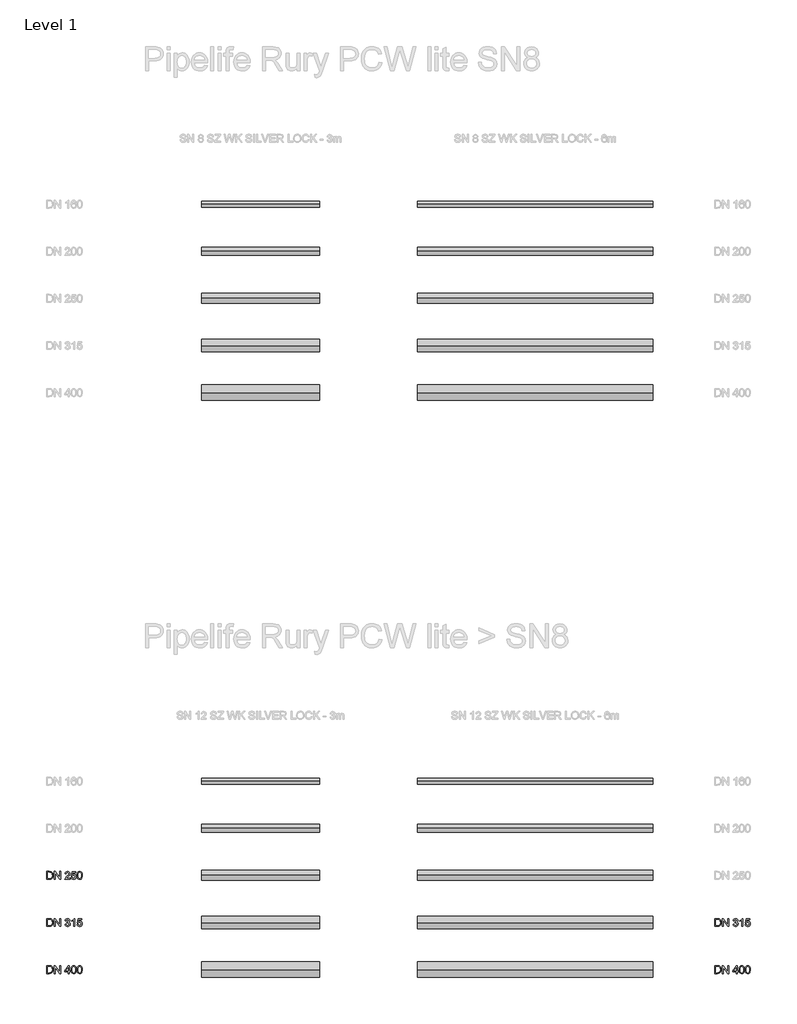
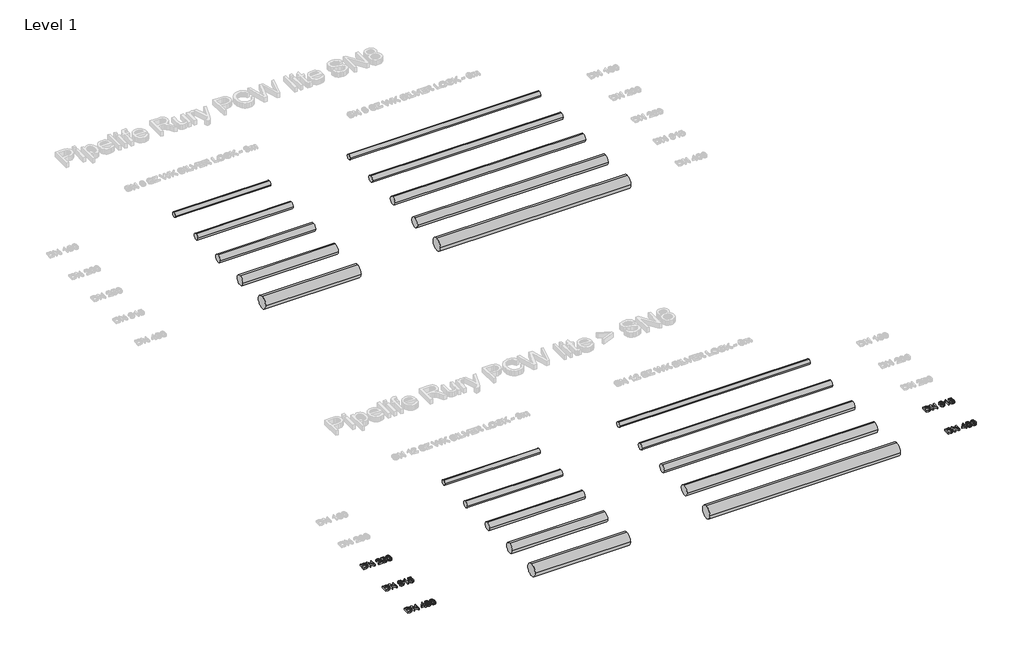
# One storey, part 1 of 8: 20 pipe segments, 5 proxies.
"""IFC4 building model written with IfcOpenShell, lengths in millimetres."""

from ifc_helpers import new_model, si_unit, point, frame, frame_2d, origin, origin_with_axes, place, context, project, spatial, polyline, circle_curve, trimmed, segment, composite_curve, outline, extrude, element, save

model = new_model("IFC4")

# Units and contexts
model_context = context("Model", 3, world=origin())
ifc_project = project(units=[si_unit("LENGTHUNIT", "METRE", prefix="MILLI")], contexts=[model_context])

# Site, building, storey
site = spatial("IfcSite", under=ifc_project)
building = spatial("IfcBuilding", under=site)
storey = spatial("IfcBuildingStorey", under=building, Name="Level 1", Elevation=0.0)

# Proxies
placement = place(None, origin())
element("IfcBuildingElementProxy", 1, Name="200mm Arial", ObjectType="200mm Arial", at=placement, inside=storey, context=model_context, shape_type="SweptSolid", body=[
    extrude(outline(polyline([(-19491.3116028, -16613.949573), (-19491.3116028, -16413.0369527), (-19422.0026349, -16413.0369527), (-19386.1464031, -16415.9309577), (-19370.1312736, -16421.5105013), (-19356.6177416, -16430.302881), (-19342.724065, -16445.606772), (-19332.8280393, -16464.6385338), (-19326.9051392, -16487.0302846), (-19324.9308391, -16512.4141423), (-19330.2773908, -16552.9547382), (-19344.0116519, -16582.2136195), (-19362.3567008, -16600.436041), (-19386.3671323, -16610.5160077), (-19418.6671715, -16613.949573), (-19491.3116028, -16613.949573)]), holes=[polyline([(-19466.1975253, -16588.8354954), (-19421.7573803, -16588.8354954), (-19389.4328156, -16585.2057264), (-19370.7934612, -16574.9540815), (-19362.0685265, -16564.0831685), (-19355.5140957, -16550.0116822), (-19351.4122114, -16532.6783089), (-19350.0449167, -16512.0217348), (-19352.7243239, -16484.6513144), (-19360.7625455, -16464.4423301), (-19372.6390025, -16450.5609162), (-19386.8331162, -16442.1732067), (-19422.4440933, -16438.1510302), (-19466.1975253, -16438.1510302), (-19466.1975253, -16588.8354954)])]), origin_with_axes(), (0.0, 0.0, 1.0), 50.0),
    extrude(outline(polyline([(-19290.3989825, -16613.949573), (-19290.3989825, -16413.0369527), (-19263.5190714, -16413.0369527), (-19158.5500754, -16572.2072292), (-19158.5500754, -16413.0369527), (-19133.4359979, -16413.0369527), (-19133.4359979, -16613.949573), (-19160.315909, -16613.949573), (-19265.284905, -16454.7302454), (-19265.284905, -16613.949573), (-19290.3989825, -16613.949573)])), origin_with_axes(), (0.0, 0.0, 1.0), 50.0),
    extrude(outline(polyline([(-18891.7130016, -16588.8354954), (-18891.7130016, -16613.949573), (-19023.5619087, -16613.949573), (-19020.8641074, -16596.6345937), (-19005.6092673, -16569.9754118), (-18974.1676195, -16540.8636832), (-18930.806595, -16499.0232377), (-18922.6764029, -16484.6022634), (-18919.9663388, -16470.5736967), (-18922.5231187, -16457.9982638), (-18930.1934583, -16447.5442838), (-18941.9840762, -16440.4993436), (-18956.9016912, -16438.1510302), (-18972.5673328, -16440.4441613), (-18984.7380955, -16447.3235546), (-18992.5923761, -16458.2496499), (-18995.3085714, -16472.6828868), (-19020.422649, -16469.5436271), (-19014.334202, -16445.2511527), (-19001.1701579, -16427.5069778), (-18981.6172299, -16416.6544589), (-18956.3621309, -16413.0369527), (-18930.9230909, -16417.0591291), (-18911.4069511, -16429.1256586), (-18898.9909337, -16447.1518763), (-18894.8522613, -16469.0531178), (-18899.3158962, -16492.8673456), (-18914.1538033, -16517.4909138), (-18950.1326624, -16551.9001431), (-18979.0236618, -16576.0577275), (-18990.3544272, -16588.8354954), (-18891.7130016, -16588.8354954)])), origin_with_axes(), (0.0, 0.0, 1.0), 50.0),
    extrude(outline(polyline([(-18866.5989241, -16560.5821582), (-18841.4848465, -16557.4428985), (-18836.8740589, -16572.5199289), (-18828.8297059, -16583.3172655), (-18817.3885758, -16589.8103827), (-18802.5874569, -16591.9747551), (-18784.5857646, -16588.9642541), (-18771.0967581, -16579.9327511), (-18762.6722604, -16565.9225785), (-18759.8640945, -16547.9760685), (-18762.4944508, -16531.0780222), (-18770.3855196, -16518.1531014), (-18783.5986146, -16509.9493329), (-18802.1950494, -16507.2147434), (-18824.2434437, -16511.5802764), (-18838.3455868, -16522.9110419), (-18863.4596644, -16519.7717822), (-18841.4848465, -16416.1762123), (-18744.1677961, -16416.1762123), (-18744.1677961, -16441.2902899), (-18821.1777604, -16441.2902899), (-18831.9199147, -16496.619742), (-18813.979536, -16485.7304349), (-18795.1807661, -16482.1006659), (-18771.7160261, -16486.601089), (-18752.2366745, -16500.1023582), (-18739.1216814, -16520.6792244), (-18734.750017, -16546.4064386), (-18738.6863543, -16571.5205162), (-18750.4953664, -16593.0048247), (-18760.9309523, -16603.5415782), (-18773.1078464, -16611.0678307), (-18787.0260485, -16615.5835821), (-18802.6855588, -16617.0888326), (-18827.3520466, -16613.2199403), (-18847.0030765, -16601.6132634), (-18860.4736888, -16583.6177025), (-18866.5989241, -16560.5821582)])), origin_with_axes(), (0.0, 0.0, 1.0), 50.0),
    extrude(outline(polyline([(-18712.7751992, -16515.1119436), (-18710.9296578, -16482.9529258), (-18705.3930338, -16457.3054194), (-18696.2205094, -16437.7770168), (-18683.4672669, -16423.9753106), (-18667.0413358, -16415.7715422), (-18646.8507456, -16413.0369527), (-18631.3751764, -16414.6556334), (-18617.5182879, -16419.5116758), (-18605.930005, -16427.4150073), (-18597.2602527, -16438.1755557), (-18585.4880288, -16467.9004209), (-18580.9262921, -16515.1119436), (-18582.7534393, -16547.0870203), (-18588.2348811, -16572.6732131), (-18597.3522232, -16592.2200098), (-18610.0870716, -16606.0768983), (-18626.5497909, -16614.335849), (-18646.8507456, -16617.0888326), (-18672.9458418, -16612.3063667), (-18692.7624186, -16597.9589689), (-18701.5180101, -16582.8298218), (-18707.772004, -16563.9789353), (-18712.7751992, -16515.1119436)]), holes=[polyline([(-18687.6611216, -16515.0628927), (-18684.7180657, -16554.5672876), (-18675.8888978, -16577.4311536), (-18662.7432478, -16588.3388547), (-18646.8507456, -16591.9747551), (-18630.9582434, -16588.326592), (-18617.8125935, -16577.3821026), (-18608.9834256, -16554.5059739), (-18606.0403696, -16515.0628927), (-18608.8853237, -16476.4475459), (-18617.420186, -16453.4058703), (-18630.5413105, -16441.9647402), (-18647.1450512, -16438.1510302), (-18662.8658751, -16441.5110191), (-18675.4964903, -16451.5909857), (-18684.6199638, -16476.0674012), (-18687.6611216, -16515.0628927)])]), origin_with_axes(), (0.0, 0.0, 1.0), 50.0),
])
element("IfcBuildingElementProxy", 2, Name="200mm Arial", ObjectType="200mm Arial", at=placement, inside=storey, context=model_context, shape_type="SweptSolid", body=[
    extrude(outline(polyline([(-19491.3116028, -17813.949573), (-19491.3116028, -17613.0369527), (-19422.0026349, -17613.0369527), (-19386.1464031, -17615.9309577), (-19370.1312736, -17621.5105013), (-19356.6177416, -17630.302881), (-19342.724065, -17645.606772), (-19332.8280393, -17664.6385338), (-19326.9051392, -17687.0302846), (-19324.9308391, -17712.4141423), (-19330.2773908, -17752.9547382), (-19344.0116519, -17782.2136195), (-19362.3567008, -17800.436041), (-19386.3671323, -17810.5160077), (-19418.6671715, -17813.949573), (-19491.3116028, -17813.949573)]), holes=[polyline([(-19466.1975253, -17788.8354954), (-19421.7573803, -17788.8354954), (-19389.4328156, -17785.2057264), (-19370.7934612, -17774.9540815), (-19362.0685265, -17764.0831685), (-19355.5140957, -17750.0116822), (-19351.4122114, -17732.6783089), (-19350.0449167, -17712.0217348), (-19352.7243239, -17684.6513144), (-19360.7625455, -17664.4423301), (-19372.6390025, -17650.5609162), (-19386.8331162, -17642.1732067), (-19422.4440933, -17638.1510302), (-19466.1975253, -17638.1510302), (-19466.1975253, -17788.8354954)])]), origin_with_axes(), (0.0, 0.0, 1.0), 50.0),
    extrude(outline(polyline([(-19290.3989825, -17813.949573), (-19290.3989825, -17613.0369527), (-19263.5190714, -17613.0369527), (-19158.5500754, -17772.2072292), (-19158.5500754, -17613.0369527), (-19133.4359979, -17613.0369527), (-19133.4359979, -17813.949573), (-19160.315909, -17813.949573), (-19265.284905, -17654.7302454), (-19265.284905, -17813.949573), (-19290.3989825, -17813.949573)])), origin_with_axes(), (0.0, 0.0, 1.0), 50.0),
    extrude(outline(polyline([(-19020.422649, -17760.5821582), (-18995.3085714, -17757.4428985), (-18989.6861083, -17773.2250361), (-18981.451683, -17783.8813512), (-18970.2006253, -17789.9514041), (-18955.528265, -17791.9747551), (-18938.3113877, -17789.1911147), (-18925.0185849, -17780.8401934), (-18916.5205108, -17768.3812565), (-18913.6878195, -17753.2735692), (-18916.4959853, -17738.9323028), (-18924.920483, -17727.3011004), (-18937.6737255, -17719.5939726), (-18953.4681259, -17717.02493), (-18971.0774107, -17719.7717822), (-18968.2815075, -17694.6577047), (-18964.2593311, -17694.9520102), (-18949.2129575, -17693.1493885), (-18935.7607392, -17687.7415231), (-18926.2693837, -17678.5935242), (-18923.1055985, -17665.5705016), (-18925.3987296, -17654.7241141), (-18932.2781229, -17645.925603), (-18942.7750225, -17640.0946734), (-18955.9206725, -17638.1510302), (-18969.0908479, -17640.1130675), (-18979.8575277, -17645.9991794), (-18987.7179396, -17655.809366), (-18992.1693118, -17669.5436271), (-19017.2833893, -17666.4043674), (-19009.8889612, -17643.8532011), (-18996.7310485, -17627.0164685), (-18978.7293562, -17616.5318316), (-18956.8035893, -17613.0369527), (-18941.0153203, -17614.7598667), (-18926.5146384, -17619.9286087), (-18914.2886934, -17628.0833263), (-18905.3246354, -17638.7641669), (-18899.8247996, -17651.0698196), (-18897.991521, -17664.0989736), (-18899.7328291, -17676.2390794), (-18904.9567534, -17687.2510138), (-18913.5897176, -17696.6320047), (-18925.5581452, -17703.87928), (-18909.8373212, -17710.2313758), (-18898.1877247, -17721.0471064), (-18890.9772376, -17735.7378608), (-18888.5737419, -17753.7150276), (-18893.3807333, -17778.191443), (-18907.8017075, -17798.645682), (-18929.5680589, -17812.478045), (-18956.4111818, -17817.0888326), (-18980.6913935, -17813.1524953), (-19000.4589194, -17801.3434833), (-19014.2054433, -17783.2804773), (-19020.422649, -17760.5821582)])), origin_with_axes(), (0.0, 0.0, 1.0), 50.0),
    extrude(outline(polyline([(-18772.4211333, -17813.949573), (-18797.5352108, -17813.949573), (-18797.5352108, -17657.3789958), (-18821.3249132, -17674.3260931), (-18847.7633659, -17687.0057592), (-18847.7633659, -17663.2651077), (-18810.9506409, -17639.769711), (-18797.4800285, -17626.1948653), (-18788.6079411, -17613.0369527), (-18772.4211333, -17613.0369527), (-18772.4211333, -17813.949573)])), origin_with_axes(), (0.0, 0.0, 1.0), 50.0),
    extrude(outline(polyline([(-18712.7751992, -17760.5821582), (-18687.6611216, -17757.4428985), (-18683.0503339, -17772.5199289), (-18675.005981, -17783.3172655), (-18663.5648509, -17789.8103827), (-18648.763732, -17791.9747551), (-18630.7620397, -17788.9642541), (-18617.2730332, -17779.9327511), (-18608.8485355, -17765.9225785), (-18606.0403696, -17747.9760685), (-18608.6707259, -17731.0780222), (-18616.5617947, -17718.1531014), (-18629.7748897, -17709.9493329), (-18648.3713245, -17707.2147434), (-18670.4197188, -17711.5802764), (-18684.5218619, -17722.9110419), (-18709.6359395, -17719.7717822), (-18687.6611216, -17616.1762123), (-18590.3440712, -17616.1762123), (-18590.3440712, -17641.2902899), (-18667.3540355, -17641.2902899), (-18678.0961897, -17696.619742), (-18660.1558111, -17685.7304349), (-18641.3570412, -17682.1006659), (-18617.8923012, -17686.601089), (-18598.4129496, -17700.1023582), (-18585.2979565, -17720.6792244), (-18580.9262921, -17746.4064386), (-18584.8626294, -17771.5205162), (-18596.6716415, -17793.0048247), (-18607.1072274, -17803.5415782), (-18619.2841214, -17811.0678307), (-18633.2023236, -17815.5835821), (-18648.8618339, -17817.0888326), (-18673.5283216, -17813.2199403), (-18693.1793515, -17801.6132634), (-18706.6499639, -17783.6177025), (-18712.7751992, -17760.5821582)])), origin_with_axes(), (0.0, 0.0, 1.0), 50.0),
])
element("IfcBuildingElementProxy", 3, Name="200mm Arial", ObjectType="200mm Arial", at=placement, inside=storey, context=model_context, shape_type="SweptSolid", body=[
    extrude(outline(polyline([(-19491.3116028, -19013.949573), (-19491.3116028, -18813.0369527), (-19422.0026349, -18813.0369527), (-19386.1464031, -18815.9309577), (-19370.1312736, -18821.5105013), (-19356.6177416, -18830.302881), (-19342.724065, -18845.606772), (-19332.8280393, -18864.6385338), (-19326.9051392, -18887.0302846), (-19324.9308391, -18912.4141423), (-19330.2773908, -18952.9547382), (-19344.0116519, -18982.2136195), (-19362.3567008, -19000.436041), (-19386.3671323, -19010.5160077), (-19418.6671715, -19013.949573), (-19491.3116028, -19013.949573)]), holes=[polyline([(-19466.1975253, -18988.8354954), (-19421.7573803, -18988.8354954), (-19389.4328156, -18985.2057264), (-19370.7934612, -18974.9540815), (-19362.0685265, -18964.0831685), (-19355.5140957, -18950.0116822), (-19351.4122114, -18932.6783089), (-19350.0449167, -18912.0217348), (-19352.7243239, -18884.6513144), (-19360.7625455, -18864.4423301), (-19372.6390025, -18850.5609162), (-19386.8331162, -18842.1732067), (-19422.4440933, -18838.1510302), (-19466.1975253, -18838.1510302), (-19466.1975253, -18988.8354954)])]), origin_with_axes(), (0.0, 0.0, 1.0), 50.0),
    extrude(outline(polyline([(-19290.3989825, -19013.949573), (-19290.3989825, -18813.0369527), (-19263.5190714, -18813.0369527), (-19158.5500754, -18972.2072292), (-19158.5500754, -18813.0369527), (-19133.4359979, -18813.0369527), (-19133.4359979, -19013.949573), (-19160.315909, -19013.949573), (-19265.284905, -18854.7302454), (-19265.284905, -19013.949573), (-19290.3989825, -19013.949573)])), origin_with_axes(), (0.0, 0.0, 1.0), 50.0),
    extrude(outline(polyline([(-18938.801897, -19013.949573), (-18938.801897, -18966.8606776), (-19029.8404281, -18966.8606776), (-19029.8404281, -18941.7466), (-18932.5233776, -18816.1762123), (-18913.6878195, -18816.1762123), (-18913.6878195, -18941.7466), (-18888.5737419, -18941.7466), (-18888.5737419, -18966.8606776), (-18913.6878195, -18966.8606776), (-18913.6878195, -19013.949573), (-18938.801897, -19013.949573)]), holes=[polyline([(-18938.801897, -18941.7466), (-18938.801897, -18864.1480245), (-18998.9383405, -18941.7466), (-18938.801897, -18941.7466)])]), origin_with_axes(), (0.0, 0.0, 1.0), 50.0),
    extrude(outline(polyline([(-18866.5989241, -18915.1119436), (-18864.7533827, -18882.9529258), (-18859.2167587, -18857.3054194), (-18850.0442343, -18837.7770168), (-18837.2909918, -18823.9753106), (-18820.8650607, -18815.7715422), (-18800.6744705, -18813.0369527), (-18785.1989013, -18814.6556334), (-18771.3420128, -18819.5116758), (-18759.7537299, -18827.4150073), (-18751.0839776, -18838.1755557), (-18739.3117537, -18867.9004209), (-18734.750017, -18915.1119436), (-18736.5771642, -18947.0870203), (-18742.058606, -18972.6732131), (-18751.1759481, -18992.2200098), (-18763.9107965, -19006.0768983), (-18780.3735158, -19014.335849), (-18800.6744705, -19017.0888326), (-18826.7695667, -19012.3063667), (-18846.5861435, -18997.9589689), (-18855.341735, -18982.8298218), (-18861.5957289, -18963.9789353), (-18866.5989241, -18915.1119436)]), holes=[polyline([(-18841.4848465, -18915.0628927), (-18838.5417906, -18954.5672876), (-18829.7126227, -18977.4311536), (-18816.5669727, -18988.3388547), (-18800.6744705, -18991.9747551), (-18784.7819683, -18988.326592), (-18771.6363184, -18977.3821026), (-18762.8071505, -18954.5059739), (-18759.8640945, -18915.0628927), (-18762.7090486, -18876.4475459), (-18771.2439109, -18853.4058703), (-18784.3650354, -18841.9647402), (-18800.9687761, -18838.1510302), (-18816.6896001, -18841.5110191), (-18829.3202152, -18851.5909857), (-18838.4436887, -18876.0674012), (-18841.4848465, -18915.0628927)])]), origin_with_axes(), (0.0, 0.0, 1.0), 50.0),
    extrude(outline(polyline([(-18712.7751992, -18915.1119436), (-18710.9296578, -18882.9529258), (-18705.3930338, -18857.3054194), (-18696.2205094, -18837.7770168), (-18683.4672669, -18823.9753106), (-18667.0413358, -18815.7715422), (-18646.8507456, -18813.0369527), (-18631.3751764, -18814.6556334), (-18617.5182879, -18819.5116758), (-18605.930005, -18827.4150073), (-18597.2602527, -18838.1755557), (-18585.4880288, -18867.9004209), (-18580.9262921, -18915.1119436), (-18582.7534393, -18947.0870203), (-18588.2348811, -18972.6732131), (-18597.3522232, -18992.2200098), (-18610.0870716, -19006.0768983), (-18626.5497909, -19014.335849), (-18646.8507456, -19017.0888326), (-18672.9458418, -19012.3063667), (-18692.7624186, -18997.9589689), (-18701.5180101, -18982.8298218), (-18707.772004, -18963.9789353), (-18712.7751992, -18915.1119436)]), holes=[polyline([(-18687.6611216, -18915.0628927), (-18684.7180657, -18954.5672876), (-18675.8888978, -18977.4311536), (-18662.7432478, -18988.3388547), (-18646.8507456, -18991.9747551), (-18630.9582434, -18988.326592), (-18617.8125935, -18977.3821026), (-18608.9834256, -18954.5059739), (-18606.0403696, -18915.0628927), (-18608.8853237, -18876.4475459), (-18617.420186, -18853.4058703), (-18630.5413105, -18841.9647402), (-18647.1450512, -18838.1510302), (-18662.8658751, -18841.5110191), (-18675.4964903, -18851.5909857), (-18684.6199638, -18876.0674012), (-18687.6611216, -18915.0628927)])]), origin_with_axes(), (0.0, 0.0, 1.0), 50.0),
])
element("IfcBuildingElementProxy", 4, Name="200mm Arial", ObjectType="200mm Arial", at=placement, inside=storey, context=model_context, shape_type="SweptSolid", body=[
    extrude(outline(polyline([(-2460.6923074, -17813.949573), (-2460.6923074, -17613.0369527), (-2391.3833395, -17613.0369527), (-2355.5271077, -17615.9309577), (-2339.5119782, -17621.5105013), (-2325.9984462, -17630.302881), (-2312.1047695, -17645.606772), (-2302.2087438, -17664.6385338), (-2296.2858437, -17687.0302846), (-2294.3115437, -17712.4141423), (-2299.6580953, -17752.9547382), (-2313.3923565, -17782.2136195), (-2331.7374053, -17800.436041), (-2355.7478369, -17810.5160077), (-2388.0478761, -17813.949573), (-2460.6923074, -17813.949573)]), holes=[polyline([(-2435.5782298, -17788.8354954), (-2391.1380848, -17788.8354954), (-2358.8135202, -17785.2057264), (-2340.1741658, -17774.9540815), (-2331.4492311, -17764.0831685), (-2324.8948002, -17750.0116822), (-2320.792916, -17732.6783089), (-2319.4256212, -17712.0217348), (-2322.1050284, -17684.6513144), (-2330.14325, -17664.4423301), (-2342.0197071, -17650.5609162), (-2356.2138207, -17642.1732067), (-2391.8247979, -17638.1510302), (-2435.5782298, -17638.1510302), (-2435.5782298, -17788.8354954)])]), origin_with_axes(), (0.0, 0.0, 1.0), 50.0),
    extrude(outline(polyline([(-2259.7796871, -17813.949573), (-2259.7796871, -17613.0369527), (-2232.899776, -17613.0369527), (-2127.93078, -17772.2072292), (-2127.93078, -17613.0369527), (-2102.8167025, -17613.0369527), (-2102.8167025, -17813.949573), (-2129.6966136, -17813.949573), (-2234.6656095, -17654.7302454), (-2234.6656095, -17813.949573), (-2259.7796871, -17813.949573)])), origin_with_axes(), (0.0, 0.0, 1.0), 50.0),
    extrude(outline(polyline([(-1989.8033535, -17760.5821582), (-1964.689276, -17757.4428985), (-1959.0668128, -17773.2250361), (-1950.8323875, -17783.8813512), (-1939.5813298, -17789.9514041), (-1924.9089696, -17791.9747551), (-1907.6920922, -17789.1911147), (-1894.3992895, -17780.8401934), (-1885.9012154, -17768.3812565), (-1883.068524, -17753.2735692), (-1885.8766899, -17738.9323028), (-1894.3011876, -17727.3011004), (-1907.0544301, -17719.5939726), (-1922.8488304, -17717.02493), (-1940.4581153, -17719.7717822), (-1937.6622121, -17694.6577047), (-1933.6400356, -17694.9520102), (-1918.593662, -17693.1493885), (-1905.1414437, -17687.7415231), (-1895.6500882, -17678.5935242), (-1892.4863031, -17665.5705016), (-1894.7794342, -17654.7241141), (-1901.6588275, -17645.925603), (-1912.1557271, -17640.0946734), (-1925.3013771, -17638.1510302), (-1938.4715525, -17640.1130675), (-1949.2382322, -17645.9991794), (-1957.0986442, -17655.809366), (-1961.5500163, -17669.5436271), (-1986.6640939, -17666.4043674), (-1979.2696657, -17643.8532011), (-1966.1117531, -17627.0164685), (-1948.1100608, -17616.5318316), (-1926.1842938, -17613.0369527), (-1910.3960249, -17614.7598667), (-1895.8953429, -17619.9286087), (-1883.6693979, -17628.0833263), (-1874.70534, -17638.7641669), (-1869.2055042, -17651.0698196), (-1867.3722255, -17664.0989736), (-1869.1135337, -17676.2390794), (-1874.337458, -17687.2510138), (-1882.9704221, -17696.6320047), (-1894.9388497, -17703.87928), (-1879.2180258, -17710.2313758), (-1867.5684293, -17721.0471064), (-1860.3579422, -17735.7378608), (-1857.9544465, -17753.7150276), (-1862.7614379, -17778.191443), (-1877.1824121, -17798.645682), (-1898.9487635, -17812.478045), (-1925.7918864, -17817.0888326), (-1950.0720981, -17813.1524953), (-1969.8396239, -17801.3434833), (-1983.5861478, -17783.2804773), (-1989.8033535, -17760.5821582)])), origin_with_axes(), (0.0, 0.0, 1.0), 50.0),
    extrude(outline(polyline([(-1741.8018379, -17813.949573), (-1766.9159154, -17813.949573), (-1766.9159154, -17657.3789958), (-1790.7056178, -17674.3260931), (-1817.1440705, -17687.0057592), (-1817.1440705, -17663.2651077), (-1780.3313455, -17639.769711), (-1766.8607331, -17626.1948653), (-1757.9886457, -17613.0369527), (-1741.8018379, -17613.0369527), (-1741.8018379, -17813.949573)])), origin_with_axes(), (0.0, 0.0, 1.0), 50.0),
    extrude(outline(polyline([(-1682.1559037, -17760.5821582), (-1657.0418262, -17757.4428985), (-1652.4310385, -17772.5199289), (-1644.3866855, -17783.3172655), (-1632.9455555, -17789.8103827), (-1618.1444366, -17791.9747551), (-1600.1427443, -17788.9642541), (-1586.6537378, -17779.9327511), (-1578.2292401, -17765.9225785), (-1575.4210742, -17747.9760685), (-1578.0514304, -17731.0780222), (-1585.9424992, -17718.1531014), (-1599.1555942, -17709.9493329), (-1617.7520291, -17707.2147434), (-1639.8004233, -17711.5802764), (-1653.9025665, -17722.9110419), (-1679.016644, -17719.7717822), (-1657.0418262, -17616.1762123), (-1559.7247757, -17616.1762123), (-1559.7247757, -17641.2902899), (-1636.73474, -17641.2902899), (-1647.4768943, -17696.619742), (-1629.5365157, -17685.7304349), (-1610.7377457, -17682.1006659), (-1587.2730058, -17686.601089), (-1567.7936541, -17700.1023582), (-1554.678661, -17720.6792244), (-1550.3069966, -17746.4064386), (-1554.243334, -17771.5205162), (-1566.052346, -17793.0048247), (-1576.487932, -17803.5415782), (-1588.664826, -17811.0678307), (-1602.5830282, -17815.5835821), (-1618.2425384, -17817.0888326), (-1642.9090262, -17813.2199403), (-1662.5600561, -17801.6132634), (-1676.0306685, -17783.6177025), (-1682.1559037, -17760.5821582)])), origin_with_axes(), (0.0, 0.0, 1.0), 50.0),
])
element("IfcBuildingElementProxy", 5, Name="200mm Arial", ObjectType="200mm Arial", at=placement, inside=storey, context=model_context, shape_type="SweptSolid", body=[
    extrude(outline(polyline([(-2460.6923074, -19013.949573), (-2460.6923074, -18813.0369527), (-2391.3833395, -18813.0369527), (-2355.5271077, -18815.9309577), (-2339.5119782, -18821.5105013), (-2325.9984462, -18830.302881), (-2312.1047695, -18845.606772), (-2302.2087438, -18864.6385338), (-2296.2858437, -18887.0302846), (-2294.3115437, -18912.4141423), (-2299.6580953, -18952.9547382), (-2313.3923565, -18982.2136195), (-2331.7374053, -19000.436041), (-2355.7478369, -19010.5160077), (-2388.0478761, -19013.949573), (-2460.6923074, -19013.949573)]), holes=[polyline([(-2435.5782298, -18988.8354954), (-2391.1380848, -18988.8354954), (-2358.8135202, -18985.2057264), (-2340.1741658, -18974.9540815), (-2331.4492311, -18964.0831685), (-2324.8948002, -18950.0116822), (-2320.792916, -18932.6783089), (-2319.4256212, -18912.0217348), (-2322.1050284, -18884.6513144), (-2330.14325, -18864.4423301), (-2342.0197071, -18850.5609162), (-2356.2138207, -18842.1732067), (-2391.8247979, -18838.1510302), (-2435.5782298, -18838.1510302), (-2435.5782298, -18988.8354954)])]), origin_with_axes(), (0.0, 0.0, 1.0), 50.0),
    extrude(outline(polyline([(-2259.7796871, -19013.949573), (-2259.7796871, -18813.0369527), (-2232.899776, -18813.0369527), (-2127.93078, -18972.2072292), (-2127.93078, -18813.0369527), (-2102.8167025, -18813.0369527), (-2102.8167025, -19013.949573), (-2129.6966136, -19013.949573), (-2234.6656095, -18854.7302454), (-2234.6656095, -19013.949573), (-2259.7796871, -19013.949573)])), origin_with_axes(), (0.0, 0.0, 1.0), 50.0),
    extrude(outline(polyline([(-1908.1826015, -19013.949573), (-1908.1826015, -18966.8606776), (-1999.2211326, -18966.8606776), (-1999.2211326, -18941.7466), (-1901.9040822, -18816.1762123), (-1883.068524, -18816.1762123), (-1883.068524, -18941.7466), (-1857.9544465, -18941.7466), (-1857.9544465, -18966.8606776), (-1883.068524, -18966.8606776), (-1883.068524, -19013.949573), (-1908.1826015, -19013.949573)]), holes=[polyline([(-1908.1826015, -18941.7466), (-1908.1826015, -18864.1480245), (-1968.319045, -18941.7466), (-1908.1826015, -18941.7466)])]), origin_with_axes(), (0.0, 0.0, 1.0), 50.0),
    extrude(outline(polyline([(-1835.9796286, -18915.1119436), (-1834.1340873, -18882.9529258), (-1828.5974633, -18857.3054194), (-1819.4249388, -18837.7770168), (-1806.6716963, -18823.9753106), (-1790.2457653, -18815.7715422), (-1770.0551751, -18813.0369527), (-1754.5796058, -18814.6556334), (-1740.7227173, -18819.5116758), (-1729.1344345, -18827.4150073), (-1720.4646821, -18838.1755557), (-1708.6924583, -18867.9004209), (-1704.1307216, -18915.1119436), (-1705.9578688, -18947.0870203), (-1711.4393105, -18972.6732131), (-1720.5566526, -18992.2200098), (-1733.291501, -19006.0768983), (-1749.7542203, -19014.335849), (-1770.0551751, -19017.0888326), (-1796.1502713, -19012.3063667), (-1815.9668481, -18997.9589689), (-1824.7224396, -18982.8298218), (-1830.9764335, -18963.9789353), (-1835.9796286, -18915.1119436)]), holes=[polyline([(-1810.8655511, -18915.0628927), (-1807.9224951, -18954.5672876), (-1799.0933272, -18977.4311536), (-1785.9476773, -18988.3388547), (-1770.0551751, -18991.9747551), (-1754.1626729, -18988.326592), (-1741.0170229, -18977.3821026), (-1732.1878551, -18954.5059739), (-1729.2447991, -18915.0628927), (-1732.0897532, -18876.4475459), (-1740.6246155, -18853.4058703), (-1753.74574, -18841.9647402), (-1770.3494807, -18838.1510302), (-1786.0703046, -18841.5110191), (-1798.7009198, -18851.5909857), (-1807.8243933, -18876.0674012), (-1810.8655511, -18915.0628927)])]), origin_with_axes(), (0.0, 0.0, 1.0), 50.0),
    extrude(outline(polyline([(-1682.1559037, -18915.1119436), (-1680.3103624, -18882.9529258), (-1674.7737383, -18857.3054194), (-1665.6012139, -18837.7770168), (-1652.8479714, -18823.9753106), (-1636.4220403, -18815.7715422), (-1616.2314502, -18813.0369527), (-1600.7558809, -18814.6556334), (-1586.8989924, -18819.5116758), (-1575.3107096, -18827.4150073), (-1566.6409572, -18838.1755557), (-1554.8687334, -18867.9004209), (-1550.3069966, -18915.1119436), (-1552.1341439, -18947.0870203), (-1557.6155856, -18972.6732131), (-1566.7329277, -18992.2200098), (-1579.4677761, -19006.0768983), (-1595.9304954, -19014.335849), (-1616.2314502, -19017.0888326), (-1642.3265464, -19012.3063667), (-1662.1431232, -18997.9589689), (-1670.8987147, -18982.8298218), (-1677.1527086, -18963.9789353), (-1682.1559037, -18915.1119436)]), holes=[polyline([(-1657.0418262, -18915.0628927), (-1654.0987702, -18954.5672876), (-1645.2696023, -18977.4311536), (-1632.1239524, -18988.3388547), (-1616.2314502, -18991.9747551), (-1600.338948, -18988.326592), (-1587.193298, -18977.3821026), (-1578.3641301, -18954.5059739), (-1575.4210742, -18915.0628927), (-1578.2660283, -18876.4475459), (-1586.8008906, -18853.4058703), (-1599.9220151, -18841.9647402), (-1616.5257558, -18838.1510302), (-1632.2465797, -18841.5110191), (-1644.8771949, -18851.5909857), (-1654.0006683, -18876.0674012), (-1657.0418262, -18915.0628927)])]), origin_with_axes(), (0.0, 0.0, 1.0), 50.0),
])

# Pipe segments
element("IfcPipeSegment", 6, ObjectType="Pipelife PCW lite SZ, SN 8 WK SILVER LOCK - 3m", at=placement, inside=storey, context=model_context, shape_type="SweptSolid", body=[
    extrude(outline(composite_curve([segment(trimmed(circle_curve(frame_2d((586.050427, 0.0)), 80.0), [point((506.050427, 0.0))], [point((586.050427, 80.0))], False, "CARTESIAN"), True, "CONTINUOUS"), segment(trimmed(circle_curve(frame_2d((586.050427, 0.0)), 80.0), [point((586.050427, 80.0))], [point((666.050427, 0.0))], False, "CARTESIAN"), True, "CONTINUOUS"), segment(trimmed(circle_curve(frame_2d((586.050427, 0.0)), 80.0), [point((666.050427, 0.0))], [point((586.050427, -80.0))], False, "CARTESIAN"), True, "CONTINUOUS"), segment(trimmed(circle_curve(frame_2d((586.050427, 0.0)), 80.0), [point((586.050427, -80.0))], [point((506.050427, 0.0))], False, "CARTESIAN"), True, "CONTINUOUS")], self_intersect=False)), frame((-15532.6671252, 0.0, 0.0), z_axis=(1.0, 0.0, 0.0), x_axis=(0.0, 1.0, 0.0)), (0.0, 0.0, 1.0), 3000.0),
])
element("IfcPipeSegment", 7, ObjectType="Pipelife PCW lite SZ, SN 8 WK SILVER LOCK - 3m", at=placement, inside=storey, context=model_context, shape_type="SweptSolid", body=[
    extrude(outline(composite_curve([segment(trimmed(circle_curve(frame_2d((-613.949573, 0.0)), 100.0), [point((-713.949573, 0.0))], [point((-613.949573, 100.0))], False, "CARTESIAN"), True, "CONTINUOUS"), segment(trimmed(circle_curve(frame_2d((-613.949573, 0.0)), 100.0), [point((-613.949573, 100.0))], [point((-513.949573, 0.0))], False, "CARTESIAN"), True, "CONTINUOUS"), segment(trimmed(circle_curve(frame_2d((-613.949573, 0.0)), 100.0), [point((-513.949573, 0.0))], [point((-613.949573, -100.0))], False, "CARTESIAN"), True, "CONTINUOUS"), segment(trimmed(circle_curve(frame_2d((-613.949573, 0.0)), 100.0), [point((-613.949573, -100.0))], [point((-713.949573, 0.0))], False, "CARTESIAN"), True, "CONTINUOUS")], self_intersect=False)), frame((-15532.6671252, 0.0, 0.0), z_axis=(1.0, 0.0, 0.0), x_axis=(0.0, 1.0, 0.0)), (0.0, 0.0, 1.0), 3000.0),
])
element("IfcPipeSegment", 8, ObjectType="Pipelife PCW lite SZ, SN 8 WK SILVER LOCK - 3m", at=placement, inside=storey, context=model_context, shape_type="SweptSolid", body=[
    extrude(outline(composite_curve([segment(trimmed(circle_curve(frame_2d((-1813.949573, 0.0)), 125.0), [point((-1938.949573, 0.0))], [point((-1813.949573, 125.0))], False, "CARTESIAN"), True, "CONTINUOUS"), segment(trimmed(circle_curve(frame_2d((-1813.949573, 0.0)), 125.0), [point((-1813.949573, 125.0))], [point((-1688.949573, 0.0))], False, "CARTESIAN"), True, "CONTINUOUS"), segment(trimmed(circle_curve(frame_2d((-1813.949573, 0.0)), 125.0), [point((-1688.949573, 0.0))], [point((-1813.949573, -125.0))], False, "CARTESIAN"), True, "CONTINUOUS"), segment(trimmed(circle_curve(frame_2d((-1813.949573, 0.0)), 125.0), [point((-1813.949573, -125.0))], [point((-1938.949573, 0.0))], False, "CARTESIAN"), True, "CONTINUOUS")], self_intersect=False)), frame((-15532.6671252, 0.0, 0.0), z_axis=(1.0, 0.0, 0.0), x_axis=(0.0, 1.0, 0.0)), (0.0, 0.0, 1.0), 3000.0),
])
element("IfcPipeSegment", 9, ObjectType="Pipelife PCW lite SZ, SN 8 WK SILVER LOCK - 3m", at=placement, inside=storey, context=model_context, shape_type="SweptSolid", body=[
    extrude(outline(composite_curve([segment(trimmed(circle_curve(frame_2d((-3013.949573, 0.0)), 157.5), [point((-3171.449573, 0.0))], [point((-3013.949573, 157.5))], False, "CARTESIAN"), True, "CONTINUOUS"), segment(trimmed(circle_curve(frame_2d((-3013.949573, 0.0)), 157.5), [point((-3013.949573, 157.5))], [point((-2856.449573, 0.0))], False, "CARTESIAN"), True, "CONTINUOUS"), segment(trimmed(circle_curve(frame_2d((-3013.949573, 0.0)), 157.5), [point((-2856.449573, 0.0))], [point((-3013.949573, -157.5))], False, "CARTESIAN"), True, "CONTINUOUS"), segment(trimmed(circle_curve(frame_2d((-3013.949573, 0.0)), 157.5), [point((-3013.949573, -157.5))], [point((-3171.449573, 0.0))], False, "CARTESIAN"), True, "CONTINUOUS")], self_intersect=False)), frame((-15532.6671252, 0.0, 0.0), z_axis=(1.0, 0.0, 0.0), x_axis=(0.0, 1.0, 0.0)), (0.0, 0.0, 1.0), 3000.0),
])
element("IfcPipeSegment", 10, ObjectType="Pipelife PCW lite SZ, SN 8 WK SILVER LOCK - 3m", at=placement, inside=storey, context=model_context, shape_type="SweptSolid", body=[
    extrude(outline(composite_curve([segment(trimmed(circle_curve(frame_2d((-4213.949573, 0.0)), 200.0), [point((-4413.949573, 0.0))], [point((-4213.949573, 200.0))], False, "CARTESIAN"), True, "CONTINUOUS"), segment(trimmed(circle_curve(frame_2d((-4213.949573, 0.0)), 200.0), [point((-4213.949573, 200.0))], [point((-4013.949573, 0.0))], False, "CARTESIAN"), True, "CONTINUOUS"), segment(trimmed(circle_curve(frame_2d((-4213.949573, 0.0)), 200.0), [point((-4013.949573, 0.0))], [point((-4213.949573, -200.0))], False, "CARTESIAN"), True, "CONTINUOUS"), segment(trimmed(circle_curve(frame_2d((-4213.949573, 0.0)), 200.0), [point((-4213.949573, -200.0))], [point((-4413.949573, 0.0))], False, "CARTESIAN"), True, "CONTINUOUS")], self_intersect=False)), frame((-15532.6671252, 0.0, 0.0), z_axis=(1.0, 0.0, 0.0), x_axis=(0.0, 1.0, 0.0)), (0.0, 0.0, 1.0), 3000.0),
])
element("IfcPipeSegment", 11, ObjectType="Pipelife PCW lite SZ, SN 8 WK SILVER LOCK - 6m", at=placement, inside=storey, context=model_context, shape_type="SweptSolid", body=[
    extrude(outline(composite_curve([segment(trimmed(circle_curve(frame_2d((586.050427, 0.0)), 80.0), [point((506.050427, 0.0))], [point((586.050427, 80.0))], False, "CARTESIAN"), True, "CONTINUOUS"), segment(trimmed(circle_curve(frame_2d((586.050427, 0.0)), 80.0), [point((586.050427, 80.0))], [point((666.050427, 0.0))], False, "CARTESIAN"), True, "CONTINUOUS"), segment(trimmed(circle_curve(frame_2d((586.050427, 0.0)), 80.0), [point((666.050427, 0.0))], [point((586.050427, -80.0))], False, "CARTESIAN"), True, "CONTINUOUS"), segment(trimmed(circle_curve(frame_2d((586.050427, 0.0)), 80.0), [point((586.050427, -80.0))], [point((506.050427, 0.0))], False, "CARTESIAN"), True, "CONTINUOUS")], self_intersect=False)), frame((-10032.6671252, 0.0, 0.0), z_axis=(1.0, 0.0, 0.0), x_axis=(0.0, 1.0, 0.0)), (0.0, 0.0, 1.0), 6000.0),
])
element("IfcPipeSegment", 12, ObjectType="Pipelife PCW lite SZ, SN 8 WK SILVER LOCK - 6m", at=placement, inside=storey, context=model_context, shape_type="SweptSolid", body=[
    extrude(outline(composite_curve([segment(trimmed(circle_curve(frame_2d((-613.949573, 0.0)), 100.0), [point((-713.949573, 0.0))], [point((-613.949573, 100.0))], False, "CARTESIAN"), True, "CONTINUOUS"), segment(trimmed(circle_curve(frame_2d((-613.949573, 0.0)), 100.0), [point((-613.949573, 100.0))], [point((-513.949573, 0.0))], False, "CARTESIAN"), True, "CONTINUOUS"), segment(trimmed(circle_curve(frame_2d((-613.949573, 0.0)), 100.0), [point((-513.949573, 0.0))], [point((-613.949573, -100.0))], False, "CARTESIAN"), True, "CONTINUOUS"), segment(trimmed(circle_curve(frame_2d((-613.949573, 0.0)), 100.0), [point((-613.949573, -100.0))], [point((-713.949573, 0.0))], False, "CARTESIAN"), True, "CONTINUOUS")], self_intersect=False)), frame((-10032.6671252, 0.0, 0.0), z_axis=(1.0, 0.0, 0.0), x_axis=(0.0, 1.0, 0.0)), (0.0, 0.0, 1.0), 6000.0),
])
element("IfcPipeSegment", 13, ObjectType="Pipelife PCW lite SZ, SN 8 WK SILVER LOCK - 6m", at=placement, inside=storey, context=model_context, shape_type="SweptSolid", body=[
    extrude(outline(composite_curve([segment(trimmed(circle_curve(frame_2d((-1813.949573, 0.0)), 125.0), [point((-1938.949573, 0.0))], [point((-1813.949573, 125.0))], False, "CARTESIAN"), True, "CONTINUOUS"), segment(trimmed(circle_curve(frame_2d((-1813.949573, 0.0)), 125.0), [point((-1813.949573, 125.0))], [point((-1688.949573, 0.0))], False, "CARTESIAN"), True, "CONTINUOUS"), segment(trimmed(circle_curve(frame_2d((-1813.949573, 0.0)), 125.0), [point((-1688.949573, 0.0))], [point((-1813.949573, -125.0))], False, "CARTESIAN"), True, "CONTINUOUS"), segment(trimmed(circle_curve(frame_2d((-1813.949573, 0.0)), 125.0), [point((-1813.949573, -125.0))], [point((-1938.949573, 0.0))], False, "CARTESIAN"), True, "CONTINUOUS")], self_intersect=False)), frame((-10032.6671252, 0.0, 0.0), z_axis=(1.0, 0.0, 0.0), x_axis=(0.0, 1.0, 0.0)), (0.0, 0.0, 1.0), 6000.0),
])
element("IfcPipeSegment", 14, ObjectType="Pipelife PCW lite SZ, SN 8 WK SILVER LOCK - 6m", at=placement, inside=storey, context=model_context, shape_type="SweptSolid", body=[
    extrude(outline(composite_curve([segment(trimmed(circle_curve(frame_2d((-3013.949573, 0.0)), 157.5), [point((-3171.449573, 0.0))], [point((-3013.949573, 157.5))], False, "CARTESIAN"), True, "CONTINUOUS"), segment(trimmed(circle_curve(frame_2d((-3013.949573, 0.0)), 157.5), [point((-3013.949573, 157.5))], [point((-2856.449573, 0.0))], False, "CARTESIAN"), True, "CONTINUOUS"), segment(trimmed(circle_curve(frame_2d((-3013.949573, 0.0)), 157.5), [point((-2856.449573, 0.0))], [point((-3013.949573, -157.5))], False, "CARTESIAN"), True, "CONTINUOUS"), segment(trimmed(circle_curve(frame_2d((-3013.949573, 0.0)), 157.5), [point((-3013.949573, -157.5))], [point((-3171.449573, 0.0))], False, "CARTESIAN"), True, "CONTINUOUS")], self_intersect=False)), frame((-10032.6671252, 0.0, 0.0), z_axis=(1.0, 0.0, 0.0), x_axis=(0.0, 1.0, 0.0)), (0.0, 0.0, 1.0), 6000.0),
])
element("IfcPipeSegment", 15, ObjectType="Pipelife PCW lite SZ, SN 8 WK SILVER LOCK - 6m", at=placement, inside=storey, context=model_context, shape_type="SweptSolid", body=[
    extrude(outline(composite_curve([segment(trimmed(circle_curve(frame_2d((-4213.949573, 0.0)), 200.0), [point((-4413.949573, 0.0))], [point((-4213.949573, 200.0))], False, "CARTESIAN"), True, "CONTINUOUS"), segment(trimmed(circle_curve(frame_2d((-4213.949573, 0.0)), 200.0), [point((-4213.949573, 200.0))], [point((-4013.949573, 0.0))], False, "CARTESIAN"), True, "CONTINUOUS"), segment(trimmed(circle_curve(frame_2d((-4213.949573, 0.0)), 200.0), [point((-4013.949573, 0.0))], [point((-4213.949573, -200.0))], False, "CARTESIAN"), True, "CONTINUOUS"), segment(trimmed(circle_curve(frame_2d((-4213.949573, 0.0)), 200.0), [point((-4213.949573, -200.0))], [point((-4413.949573, 0.0))], False, "CARTESIAN"), True, "CONTINUOUS")], self_intersect=False)), frame((-10032.6671252, 0.0, 0.0), z_axis=(1.0, 0.0, 0.0), x_axis=(0.0, 1.0, 0.0)), (0.0, 0.0, 1.0), 6000.0),
])
element("IfcPipeSegment", 16, ObjectType="Pipelife PCW SZ, SN 12 WK SILVER LOCK - 3m", at=placement, inside=storey, context=model_context, shape_type="SweptSolid", body=[
    extrude(outline(composite_curve([segment(trimmed(circle_curve(frame_2d((-14113.949573, 0.0)), 80.0), [point((-14193.949573, 0.0))], [point((-14113.949573, 80.0))], False, "CARTESIAN"), True, "CONTINUOUS"), segment(trimmed(circle_curve(frame_2d((-14113.949573, 0.0)), 80.0), [point((-14113.949573, 80.0))], [point((-14033.949573, 0.0))], False, "CARTESIAN"), True, "CONTINUOUS"), segment(trimmed(circle_curve(frame_2d((-14113.949573, 0.0)), 80.0), [point((-14033.949573, 0.0))], [point((-14113.949573, -80.0))], False, "CARTESIAN"), True, "CONTINUOUS"), segment(trimmed(circle_curve(frame_2d((-14113.949573, 0.0)), 80.0), [point((-14113.949573, -80.0))], [point((-14193.949573, 0.0))], False, "CARTESIAN"), True, "CONTINUOUS")], self_intersect=False)), frame((-15532.6671252, 0.0, 0.0), z_axis=(1.0, 0.0, 0.0), x_axis=(0.0, 1.0, 0.0)), (0.0, 0.0, 1.0), 3000.0),
])
element("IfcPipeSegment", 17, ObjectType="Pipelife PCW SZ, SN 12 WK SILVER LOCK - 3m", at=placement, inside=storey, context=model_context, shape_type="SweptSolid", body=[
    extrude(outline(composite_curve([segment(trimmed(circle_curve(frame_2d((-15313.949573, 0.0)), 100.0), [point((-15413.949573, 0.0))], [point((-15313.949573, 100.0))], False, "CARTESIAN"), True, "CONTINUOUS"), segment(trimmed(circle_curve(frame_2d((-15313.949573, 0.0)), 100.0), [point((-15313.949573, 100.0))], [point((-15213.949573, 0.0))], False, "CARTESIAN"), True, "CONTINUOUS"), segment(trimmed(circle_curve(frame_2d((-15313.949573, 0.0)), 100.0), [point((-15213.949573, 0.0))], [point((-15313.949573, -100.0))], False, "CARTESIAN"), True, "CONTINUOUS"), segment(trimmed(circle_curve(frame_2d((-15313.949573, 0.0)), 100.0), [point((-15313.949573, -100.0))], [point((-15413.949573, 0.0))], False, "CARTESIAN"), True, "CONTINUOUS")], self_intersect=False)), frame((-15532.6671252, 0.0, 0.0), z_axis=(1.0, 0.0, 0.0), x_axis=(0.0, 1.0, 0.0)), (0.0, 0.0, 1.0), 3000.0),
])
element("IfcPipeSegment", 18, ObjectType="Pipelife PCW SZ, SN 12 WK SILVER LOCK - 3m", at=placement, inside=storey, context=model_context, shape_type="SweptSolid", body=[
    extrude(outline(composite_curve([segment(trimmed(circle_curve(frame_2d((-16513.949573, 0.0)), 125.0), [point((-16638.949573, 0.0))], [point((-16513.949573, 125.0))], False, "CARTESIAN"), True, "CONTINUOUS"), segment(trimmed(circle_curve(frame_2d((-16513.949573, 0.0)), 125.0), [point((-16513.949573, 125.0))], [point((-16388.949573, 0.0))], False, "CARTESIAN"), True, "CONTINUOUS"), segment(trimmed(circle_curve(frame_2d((-16513.949573, 0.0)), 125.0), [point((-16388.949573, 0.0))], [point((-16513.949573, -125.0))], False, "CARTESIAN"), True, "CONTINUOUS"), segment(trimmed(circle_curve(frame_2d((-16513.949573, 0.0)), 125.0), [point((-16513.949573, -125.0))], [point((-16638.949573, 0.0))], False, "CARTESIAN"), True, "CONTINUOUS")], self_intersect=False)), frame((-15532.6671252, 0.0, 0.0), z_axis=(1.0, 0.0, 0.0), x_axis=(0.0, 1.0, 0.0)), (0.0, 0.0, 1.0), 3000.0),
])
element("IfcPipeSegment", 19, ObjectType="Pipelife PCW SZ, SN 12 WK SILVER LOCK - 3m", at=placement, inside=storey, context=model_context, shape_type="SweptSolid", body=[
    extrude(outline(composite_curve([segment(trimmed(circle_curve(frame_2d((-17713.949573, 0.0)), 157.5), [point((-17871.449573, 0.0))], [point((-17713.949573, 157.5))], False, "CARTESIAN"), True, "CONTINUOUS"), segment(trimmed(circle_curve(frame_2d((-17713.949573, 0.0)), 157.5), [point((-17713.949573, 157.5))], [point((-17556.449573, 0.0))], False, "CARTESIAN"), True, "CONTINUOUS"), segment(trimmed(circle_curve(frame_2d((-17713.949573, 0.0)), 157.5), [point((-17556.449573, 0.0))], [point((-17713.949573, -157.5))], False, "CARTESIAN"), True, "CONTINUOUS"), segment(trimmed(circle_curve(frame_2d((-17713.949573, 0.0)), 157.5), [point((-17713.949573, -157.5))], [point((-17871.449573, 0.0))], False, "CARTESIAN"), True, "CONTINUOUS")], self_intersect=False)), frame((-15532.6671252, 0.0, 0.0), z_axis=(1.0, 0.0, 0.0), x_axis=(0.0, 1.0, 0.0)), (0.0, 0.0, 1.0), 3000.0),
])
element("IfcPipeSegment", 20, ObjectType="Pipelife PCW SZ, SN 12 WK SILVER LOCK - 3m", at=placement, inside=storey, context=model_context, shape_type="SweptSolid", body=[
    extrude(outline(composite_curve([segment(trimmed(circle_curve(frame_2d((-18913.949573, 0.0)), 200.0), [point((-19113.949573, 0.0))], [point((-18913.949573, 200.0))], False, "CARTESIAN"), True, "CONTINUOUS"), segment(trimmed(circle_curve(frame_2d((-18913.949573, 0.0)), 200.0), [point((-18913.949573, 200.0))], [point((-18713.949573, 0.0))], False, "CARTESIAN"), True, "CONTINUOUS"), segment(trimmed(circle_curve(frame_2d((-18913.949573, 0.0)), 200.0), [point((-18713.949573, 0.0))], [point((-18913.949573, -200.0))], False, "CARTESIAN"), True, "CONTINUOUS"), segment(trimmed(circle_curve(frame_2d((-18913.949573, 0.0)), 200.0), [point((-18913.949573, -200.0))], [point((-19113.949573, 0.0))], False, "CARTESIAN"), True, "CONTINUOUS")], self_intersect=False)), frame((-15532.6671252, 0.0, 0.0), z_axis=(1.0, 0.0, 0.0), x_axis=(0.0, 1.0, 0.0)), (0.0, 0.0, 1.0), 3000.0),
])
element("IfcPipeSegment", 21, ObjectType="Pipelife PCW SZ, SN 12 WK SILVER LOCK - 6m", at=placement, inside=storey, context=model_context, shape_type="SweptSolid", body=[
    extrude(outline(composite_curve([segment(trimmed(circle_curve(frame_2d((-14113.949573, 0.0)), 80.0), [point((-14193.949573, 0.0))], [point((-14113.949573, 80.0))], False, "CARTESIAN"), True, "CONTINUOUS"), segment(trimmed(circle_curve(frame_2d((-14113.949573, 0.0)), 80.0), [point((-14113.949573, 80.0))], [point((-14033.949573, 0.0))], False, "CARTESIAN"), True, "CONTINUOUS"), segment(trimmed(circle_curve(frame_2d((-14113.949573, 0.0)), 80.0), [point((-14033.949573, 0.0))], [point((-14113.949573, -80.0))], False, "CARTESIAN"), True, "CONTINUOUS"), segment(trimmed(circle_curve(frame_2d((-14113.949573, 0.0)), 80.0), [point((-14113.949573, -80.0))], [point((-14193.949573, 0.0))], False, "CARTESIAN"), True, "CONTINUOUS")], self_intersect=False)), frame((-10032.6671252, 0.0, 0.0), z_axis=(1.0, 0.0, 0.0), x_axis=(0.0, 1.0, 0.0)), (0.0, 0.0, 1.0), 6000.0),
])
element("IfcPipeSegment", 22, ObjectType="Pipelife PCW SZ, SN 12 WK SILVER LOCK - 6m", at=placement, inside=storey, context=model_context, shape_type="SweptSolid", body=[
    extrude(outline(composite_curve([segment(trimmed(circle_curve(frame_2d((-15313.949573, 0.0)), 100.0), [point((-15413.949573, 0.0))], [point((-15313.949573, 100.0))], False, "CARTESIAN"), True, "CONTINUOUS"), segment(trimmed(circle_curve(frame_2d((-15313.949573, 0.0)), 100.0), [point((-15313.949573, 100.0))], [point((-15213.949573, 0.0))], False, "CARTESIAN"), True, "CONTINUOUS"), segment(trimmed(circle_curve(frame_2d((-15313.949573, 0.0)), 100.0), [point((-15213.949573, 0.0))], [point((-15313.949573, -100.0))], False, "CARTESIAN"), True, "CONTINUOUS"), segment(trimmed(circle_curve(frame_2d((-15313.949573, 0.0)), 100.0), [point((-15313.949573, -100.0))], [point((-15413.949573, 0.0))], False, "CARTESIAN"), True, "CONTINUOUS")], self_intersect=False)), frame((-10032.6671252, 0.0, 0.0), z_axis=(1.0, 0.0, 0.0), x_axis=(0.0, 1.0, 0.0)), (0.0, 0.0, 1.0), 6000.0),
])
element("IfcPipeSegment", 23, ObjectType="Pipelife PCW SZ, SN 12 WK SILVER LOCK - 6m", at=placement, inside=storey, context=model_context, shape_type="SweptSolid", body=[
    extrude(outline(composite_curve([segment(trimmed(circle_curve(frame_2d((-16513.949573, 0.0)), 125.0), [point((-16638.949573, 0.0))], [point((-16513.949573, 125.0))], False, "CARTESIAN"), True, "CONTINUOUS"), segment(trimmed(circle_curve(frame_2d((-16513.949573, 0.0)), 125.0), [point((-16513.949573, 125.0))], [point((-16388.949573, 0.0))], False, "CARTESIAN"), True, "CONTINUOUS"), segment(trimmed(circle_curve(frame_2d((-16513.949573, 0.0)), 125.0), [point((-16388.949573, 0.0))], [point((-16513.949573, -125.0))], False, "CARTESIAN"), True, "CONTINUOUS"), segment(trimmed(circle_curve(frame_2d((-16513.949573, 0.0)), 125.0), [point((-16513.949573, -125.0))], [point((-16638.949573, 0.0))], False, "CARTESIAN"), True, "CONTINUOUS")], self_intersect=False)), frame((-10032.6671252, 0.0, 0.0), z_axis=(1.0, 0.0, 0.0), x_axis=(0.0, 1.0, 0.0)), (0.0, 0.0, 1.0), 6000.0),
])
element("IfcPipeSegment", 24, ObjectType="Pipelife PCW SZ, SN 12 WK SILVER LOCK - 6m", at=placement, inside=storey, context=model_context, shape_type="SweptSolid", body=[
    extrude(outline(composite_curve([segment(trimmed(circle_curve(frame_2d((-17713.949573, 0.0)), 157.5), [point((-17871.449573, 0.0))], [point((-17713.949573, 157.5))], False, "CARTESIAN"), True, "CONTINUOUS"), segment(trimmed(circle_curve(frame_2d((-17713.949573, 0.0)), 157.5), [point((-17713.949573, 157.5))], [point((-17556.449573, 0.0))], False, "CARTESIAN"), True, "CONTINUOUS"), segment(trimmed(circle_curve(frame_2d((-17713.949573, 0.0)), 157.5), [point((-17556.449573, 0.0))], [point((-17713.949573, -157.5))], False, "CARTESIAN"), True, "CONTINUOUS"), segment(trimmed(circle_curve(frame_2d((-17713.949573, 0.0)), 157.5), [point((-17713.949573, -157.5))], [point((-17871.449573, 0.0))], False, "CARTESIAN"), True, "CONTINUOUS")], self_intersect=False)), frame((-10032.6671252, 0.0, 0.0), z_axis=(1.0, 0.0, 0.0), x_axis=(0.0, 1.0, 0.0)), (0.0, 0.0, 1.0), 6000.0),
])
element("IfcPipeSegment", 25, ObjectType="Pipelife PCW SZ, SN 12 WK SILVER LOCK - 6m", at=placement, inside=storey, context=model_context, shape_type="SweptSolid", body=[
    extrude(outline(composite_curve([segment(trimmed(circle_curve(frame_2d((-18913.949573, 0.0)), 200.0), [point((-19113.949573, 0.0))], [point((-18913.949573, 200.0))], False, "CARTESIAN"), True, "CONTINUOUS"), segment(trimmed(circle_curve(frame_2d((-18913.949573, 0.0)), 200.0), [point((-18913.949573, 200.0))], [point((-18713.949573, 0.0))], False, "CARTESIAN"), True, "CONTINUOUS"), segment(trimmed(circle_curve(frame_2d((-18913.949573, 0.0)), 200.0), [point((-18713.949573, 0.0))], [point((-18913.949573, -200.0))], False, "CARTESIAN"), True, "CONTINUOUS"), segment(trimmed(circle_curve(frame_2d((-18913.949573, 0.0)), 200.0), [point((-18913.949573, -200.0))], [point((-19113.949573, 0.0))], False, "CARTESIAN"), True, "CONTINUOUS")], self_intersect=False)), frame((-10032.6671252, 0.0, 0.0), z_axis=(1.0, 0.0, 0.0), x_axis=(0.0, 1.0, 0.0)), (0.0, 0.0, 1.0), 6000.0),
])

save(model, "model.ifc")
